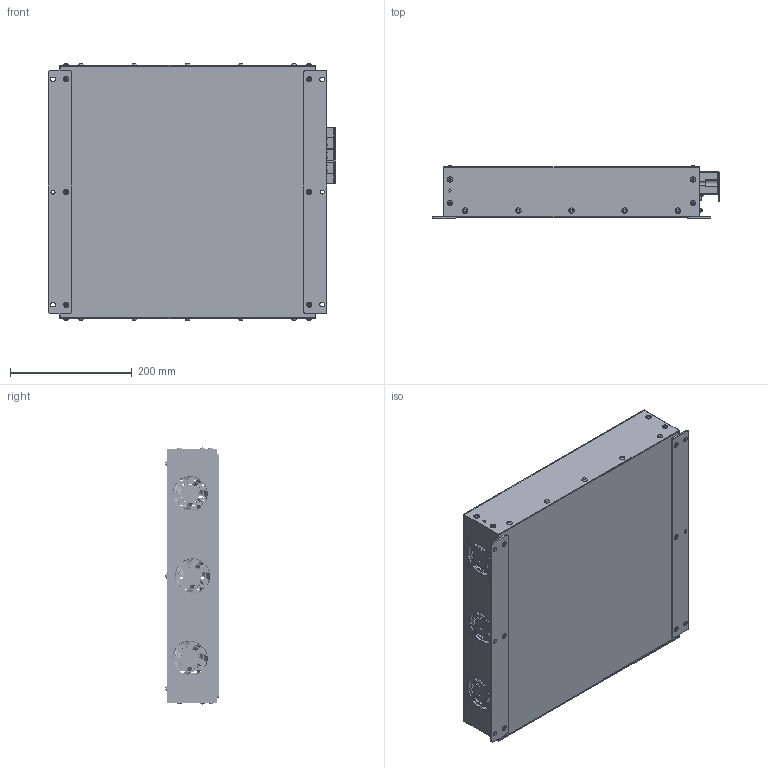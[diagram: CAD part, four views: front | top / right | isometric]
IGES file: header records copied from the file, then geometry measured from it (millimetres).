
Global section: file name: OLED_VW3COM_2026.06.05_단순화_3; native system: Autodesk Inventor 2026; preprocessor: unknown; author: Administrator; date: 20260608.145002; units: millimetre
Bounding box: 471.28 x 87.95 x 421.84 mm (x, y, z)
Volume: 914364.8 mm3; surface area: 1154153.5 mm2
Topology: 14 solids, 14 shells, 6282 faces, 17161 edges, 11406 vertices
Faces by surface type: bspline 6282
